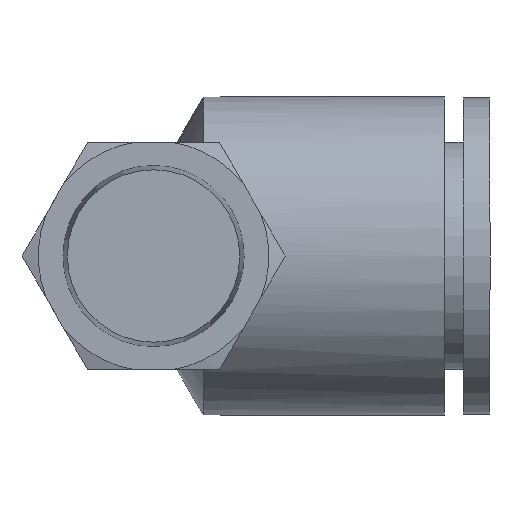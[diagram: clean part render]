
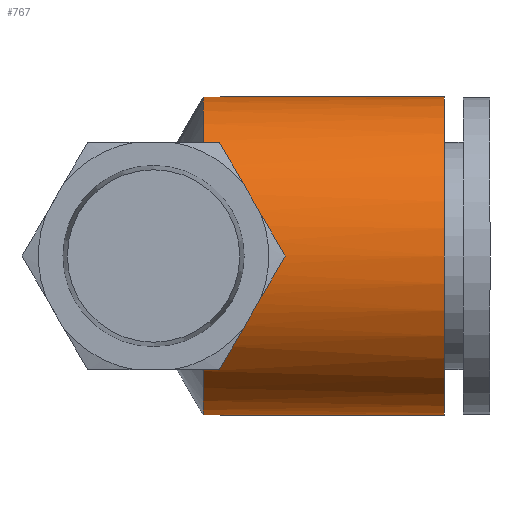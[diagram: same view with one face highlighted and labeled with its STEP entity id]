
A CAD part, front view. The second image highlights one B-rep face of the part: STEP entity #767.
In plain terms, the highlighted cylindrical face has radius 11.89 mm (diameter 23.78 mm), a full revolution.
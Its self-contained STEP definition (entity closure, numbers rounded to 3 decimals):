
#118=CYLINDRICAL_SURFACE('',#859,11.89);
#130=B_SPLINE_CURVE_WITH_KNOTS('',3,(#1160,#1161,#1162,#1163),
 .UNSPECIFIED.,.F.,.F.,(4,4),(0.,0.002),
 .UNSPECIFIED.);
#131=B_SPLINE_CURVE_WITH_KNOTS('',3,(#1167,#1168,#1169,#1170),
 .UNSPECIFIED.,.F.,.F.,(4,4),(0.,0.002),
 .UNSPECIFIED.);
#132=B_SPLINE_CURVE_WITH_KNOTS('',3,(#1184,#1185,#1186,#1187,#1188,#1189,
#1190,#1191,#1192,#1193),.UNSPECIFIED.,.F.,.F.,(4,1,1,1,1,1,1,4),(0.,0.002,
0.004,0.006,0.008,0.01,
0.012,0.016),.UNSPECIFIED.);
#341=ORIENTED_EDGE('',*,*,#483,.F.);
#342=ORIENTED_EDGE('',*,*,#420,.T.);
#343=ORIENTED_EDGE('',*,*,#411,.T.);
#344=ORIENTED_EDGE('',*,*,#400,.T.);
#345=ORIENTED_EDGE('',*,*,#413,.T.);
#400=EDGE_CURVE('',#511,#510,#580,.T.);
#411=EDGE_CURVE('',#517,#511,#130,.T.);
#413=EDGE_CURVE('',#510,#518,#131,.T.);
#420=EDGE_CURVE('',#518,#517,#132,.T.);
#483=EDGE_CURVE('',#563,#563,#607,.T.);
#510=VERTEX_POINT('',#1129);
#511=VERTEX_POINT('',#1131);
#517=VERTEX_POINT('',#1164);
#518=VERTEX_POINT('',#1166);
#563=VERTEX_POINT('',#1395);
#580=CIRCLE('',#801,11.89);
#607=CIRCLE('',#860,11.89);
#652=EDGE_LOOP('',(#341));
#653=EDGE_LOOP('',(#342,#343,#344,#345));
#710=FACE_BOUND('',#652,.T.);
#711=FACE_BOUND('',#653,.T.);
#767=ADVANCED_FACE('',(#710,#711),#118,.T.);
#801=AXIS2_PLACEMENT_3D('',#1130,#897,#898);
#859=AXIS2_PLACEMENT_3D('',#1393,#1039,#1040);
#860=AXIS2_PLACEMENT_3D('',#1394,#1041,#1042);
#897=DIRECTION('',(1.,0.,0.));
#898=DIRECTION('',(0.,1.,0.));
#1039=DIRECTION('',(1.,0.,0.));
#1040=DIRECTION('',(0.,1.,0.));
#1041=DIRECTION('',(1.,0.,0.));
#1042=DIRECTION('',(0.,1.,0.));
#1129=CARTESIAN_POINT('',(3.7,18.376,7.118));
#1130=CARTESIAN_POINT('',(3.7,27.9,0.));
#1131=CARTESIAN_POINT('',(3.7,18.376,-7.118));
#1160=CARTESIAN_POINT('',(5.188,18.1,-6.733));
#1161=CARTESIAN_POINT('',(4.7,18.203,-6.883));
#1162=CARTESIAN_POINT('',(4.204,18.296,-7.011));
#1163=CARTESIAN_POINT('',(3.7,18.376,-7.118));
#1164=CARTESIAN_POINT('',(5.188,18.1,-6.733));
#1166=CARTESIAN_POINT('',(5.188,18.1,6.733));
#1167=CARTESIAN_POINT('',(3.7,18.376,7.118));
#1168=CARTESIAN_POINT('',(4.204,18.296,7.011));
#1169=CARTESIAN_POINT('',(4.7,18.203,6.883));
#1170=CARTESIAN_POINT('',(5.188,18.1,6.733));
#1184=CARTESIAN_POINT('',(5.188,18.1,6.733));
#1185=CARTESIAN_POINT('',(5.685,17.837,6.35));
#1186=CARTESIAN_POINT('',(6.577,17.313,5.493));
#1187=CARTESIAN_POINT('',(7.642,16.613,3.886));
#1188=CARTESIAN_POINT('',(8.33,16.132,2.048));
#1189=CARTESIAN_POINT('',(8.582,15.951,0.023));
#1190=CARTESIAN_POINT('',(8.342,16.124,-2.008));
#1191=CARTESIAN_POINT('',(7.414,16.771,-4.501));
#1192=CARTESIAN_POINT('',(6.184,17.573,-5.966));
#1193=CARTESIAN_POINT('',(5.188,18.1,-6.733));
#1393=CARTESIAN_POINT('',(25.1,27.9,0.));
#1394=CARTESIAN_POINT('',(21.7,27.9,0.));
#1395=CARTESIAN_POINT('',(21.7,39.79,0.));
